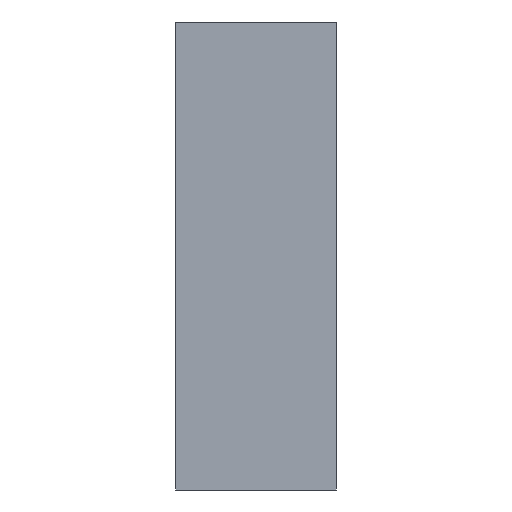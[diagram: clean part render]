
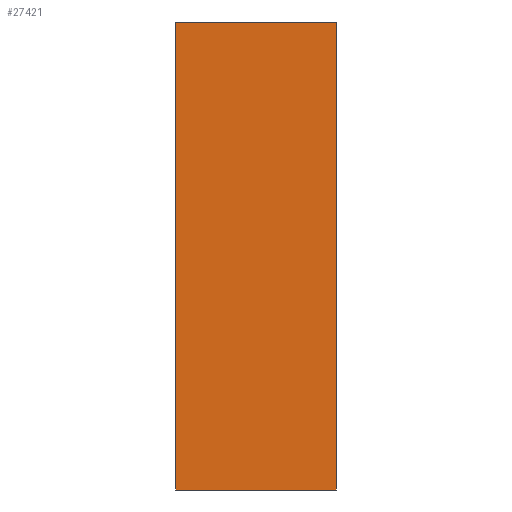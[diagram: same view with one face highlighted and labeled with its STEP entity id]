
A CAD part, left-side view. The second image highlights one B-rep face of the part: STEP entity #27421.
In plain terms, the highlighted planar face has unit normal (-1, 0, 0).
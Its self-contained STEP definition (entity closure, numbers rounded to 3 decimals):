
#15298 = CARTESIAN_POINT ( 'NONE',  ( -21.436, 0., 11.646 ) ) ;
#15299 = DIRECTION ( 'NONE',  ( 0., -1., 0. ) ) ;
#15300 = VECTOR ( 'NONE', #15299, 39.37 ) ;
#15301 = CARTESIAN_POINT ( 'NONE',  ( -21.436, 56.954, 11.646 ) ) ;
#15302 = LINE ( 'NONE', #15301, #15300 ) ;
#15496 = CARTESIAN_POINT ( 'NONE',  ( -21.436, 7.977, 11.646 ) ) ;
#24130 = EDGE_CURVE ( 'NONE', #24276, #24132, #15302, .T. ) ;
#24132 = VERTEX_POINT ( 'NONE', #15298 ) ;
#24276 = VERTEX_POINT ( 'NONE', #15496 ) ;
#26055 = CARTESIAN_POINT ( 'NONE',  ( -21.436, 7.977, 11.646 ) ) ;
#26056 = LINE ( 'NONE', #26055, #26580 ) ;
#26580 = VECTOR ( 'NONE', #26597, 39.37 ) ;
#26597 = DIRECTION ( 'NONE',  ( 0., 0., -1. ) ) ;
#26602 = CARTESIAN_POINT ( 'NONE',  ( -21.436, 0., -11.646 ) ) ;
#26604 = DIRECTION ( 'NONE',  ( 0., 0., -1. ) ) ;
#26606 = VECTOR ( 'NONE', #26604, 39.37 ) ;
#26607 = CARTESIAN_POINT ( 'NONE',  ( -21.436, 0., 11.646 ) ) ;
#26608 = LINE ( 'NONE', #26607, #26606 ) ;
#27213 = CARTESIAN_POINT ( 'NONE',  ( -21.436, 7.977, -11.646 ) ) ;
#27219 = DIRECTION ( 'NONE',  ( 0., 0., 1. ) ) ;
#27221 = DIRECTION ( 'NONE',  ( -1., 0., 0. ) ) ;
#27223 = CARTESIAN_POINT ( 'NONE',  ( -21.436, 56.954, 11.646 ) ) ;
#27224 = AXIS2_PLACEMENT_3D ( 'NONE', #27223, #27221, #27219 ) ;
#27230 = PLANE ( 'NONE',  #27224 ) ;
#27232 = FACE_OUTER_BOUND ( 'NONE', #27373, .T. ) ;
#27281 = EDGE_CURVE ( 'NONE', #24132, #27283, #26608, .T. ) ;
#27283 = VERTEX_POINT ( 'NONE', #26602 ) ;
#27373 = EDGE_LOOP ( 'NONE', ( #27424, #27426, #27430, #27432 ) ) ;
#27387 = EDGE_CURVE ( 'NONE', #24276, #27390, #26056, .T. ) ;
#27390 = VERTEX_POINT ( 'NONE', #27213 ) ;
#27421 = ADVANCED_FACE ( 'NONE', ( #27232 ), #27230, .T. ) ;
#27424 = ORIENTED_EDGE ( 'NONE', *, *, #24130, .F. ) ;
#27426 = ORIENTED_EDGE ( 'NONE', *, *, #27387, .T. ) ;
#27428 = LINE ( 'NONE', #27513, #27510 ) ;
#27430 = ORIENTED_EDGE ( 'NONE', *, *, #27464, .T. ) ;
#27432 = ORIENTED_EDGE ( 'NONE', *, *, #27281, .F. ) ;
#27464 = EDGE_CURVE ( 'NONE', #27390, #27283, #27428, .T. ) ;
#27508 = DIRECTION ( 'NONE',  ( 0., -1., 0. ) ) ;
#27510 = VECTOR ( 'NONE', #27508, 39.37 ) ;
#27513 = CARTESIAN_POINT ( 'NONE',  ( -21.436, 56.954, -11.646 ) ) ;
